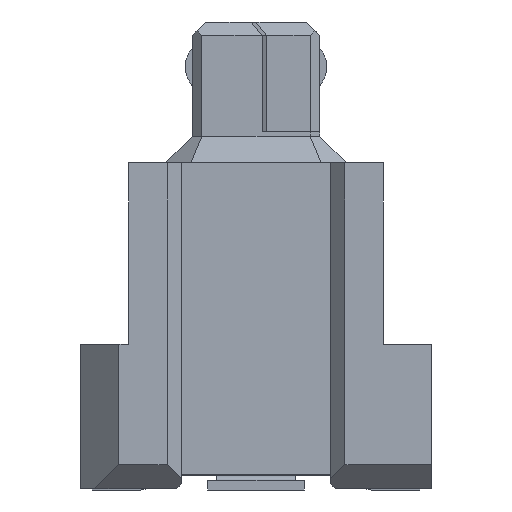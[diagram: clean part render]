
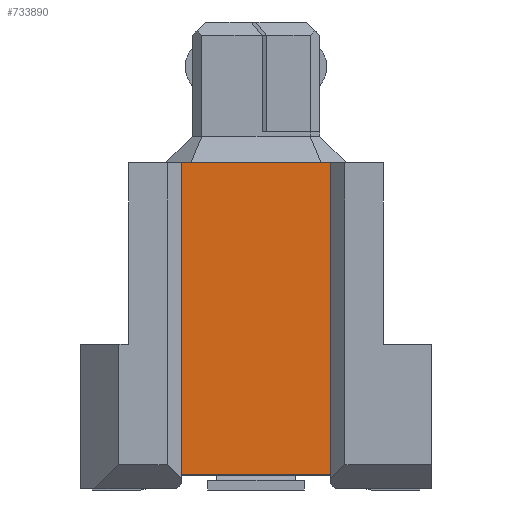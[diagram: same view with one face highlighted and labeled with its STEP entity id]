
A CAD part, left-side view. The second image highlights one B-rep face of the part: STEP entity #733890.
In plain terms, the highlighted planar face has unit normal (-1, 0, 0).
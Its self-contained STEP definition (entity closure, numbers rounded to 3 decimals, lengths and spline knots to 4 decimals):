
#50180=CARTESIAN_POINT('',(-0.0318,-5.0602,1.1));
#50190=VERTEX_POINT('',#50180);
#50220=CARTESIAN_POINT('',(-0.0318,-5.0602,0.));
#50230=DIRECTION('',(0.,0.,-1.));
#50240=VECTOR('',#50230,1.);
#50250=LINE('',#50220,#50240);
#50260=CARTESIAN_POINT('',(-0.0318,-5.0602,4.2));
#50270=VERTEX_POINT('',#50260);
#50280=EDGE_CURVE('',#50270,#50190,#50250,.T.);
#120280=CARTESIAN_POINT('',(-0.0318,1.4098,4.2));
#120290=VERTEX_POINT('',#120280);
#120320=CARTESIAN_POINT('',(-0.0318,1.4098,0.));
#120330=DIRECTION('',(0.,0.,1.));
#120340=VECTOR('',#120330,1.);
#120350=LINE('',#120320,#120340);
#120360=CARTESIAN_POINT('',(-0.0318,1.4098,1.1));
#120370=VERTEX_POINT('',#120360);
#120380=EDGE_CURVE('',#120370,#120290,#120350,.T.);
#732890=CARTESIAN_POINT('',(-0.0318,0.,4.2));
#732900=DIRECTION('',(0.,-1.,0.));
#732910=VECTOR('',#732900,1.);
#732920=LINE('',#732890,#732910);
#732930=EDGE_CURVE('',#120290,#50270,#732920,.T.);
#733730=CARTESIAN_POINT('',(-0.0318,-5.3602,5.3));
#733740=DIRECTION('',(-1.,0.,0.));
#733750=DIRECTION('',(0.,1.,0.));
#733760=AXIS2_PLACEMENT_3D('',#733730,#733740,#733750);
#733770=PLANE('',#733760);
#733780=CARTESIAN_POINT('',(-0.0318,0.,1.1));
#733790=DIRECTION('',(0.,-1.,0.));
#733800=VECTOR('',#733790,1.);
#733810=LINE('',#733780,#733800);
#733820=EDGE_CURVE('',#120370,#50190,#733810,.T.);
#733830=ORIENTED_EDGE('',*,*,#733820,.T.);
#733840=ORIENTED_EDGE('',*,*,#120380,.F.);
#733850=ORIENTED_EDGE('',*,*,#732930,.F.);
#733860=ORIENTED_EDGE('',*,*,#50280,.F.);
#733870=EDGE_LOOP('',(#733860,#733850,#733840,#733830));
#733880=FACE_OUTER_BOUND('',#733870,.T.);
#733890=ADVANCED_FACE('',(#733880),#733770,.T.);
